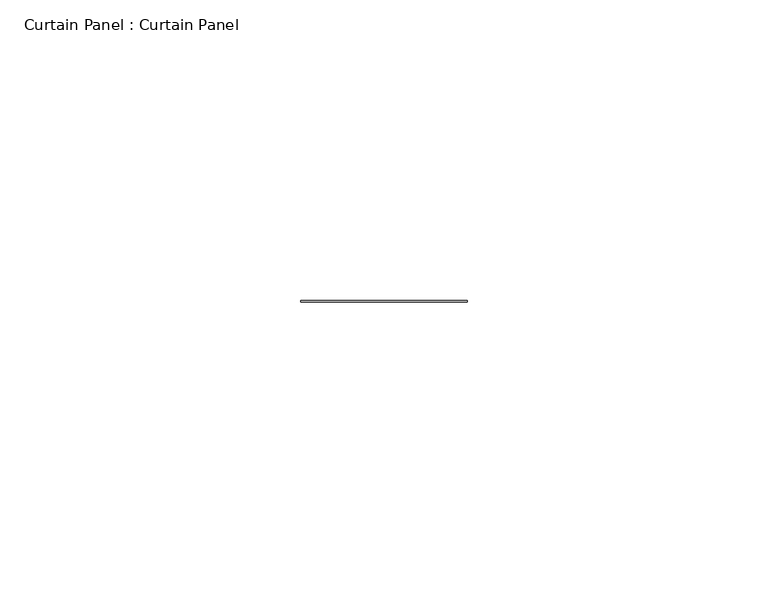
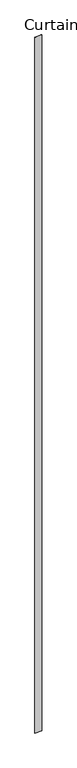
"""IFC4 building model written with IfcOpenShell, lengths in millimetres: plate geometry, Curtain Panel : Curtain Panel."""

from ifc_helpers import new_model, si_unit, frame, origin, place, context, project, spatial, polyline, outline, extrude, source, transform, mapped, element, save


def curtain_panel_curtain_panel_f88c90b2(model_context):
    return source(origin(), model_context, "Body", "SweptSolid", [
        extrude(outline(polyline([(-372.4556046, -1015.275335), (-344.8700517, -1015.275335), (-344.8700517, -1015.4507404), (-372.4556046, -1015.4507404), (-372.4556046, -1015.275335)])), frame((0.0, 0.0, 1.3000189), z_axis=(0.0, 0.0, 1.0), x_axis=(1.0, 0.0, 0.0)), (0.0, 0.0, 1.0), 3046.6999811),
    ])


if __name__ == "__main__":
    model = new_model("IFC4")
    model_context = context("Model", 3, world=origin())
    ifc_project = project(units=[si_unit("LENGTHUNIT", "METRE", prefix="MILLI")], contexts=[model_context])
    site = spatial("IfcSite", under=ifc_project)
    building = spatial("IfcBuilding", under=site)
    placement = place(None, origin())
    curtain_panel_curtain_panel_shape = curtain_panel_curtain_panel_f88c90b2(model_context)
    element("IfcPlate", 1, ObjectType="Curtain Panel : Curtain Panel", at=placement, inside=building, context=model_context, shape_type="MappedRepresentation", body=[
        mapped(curtain_panel_curtain_panel_shape, transform((0.0, 0.0, 0.0), x_axis=(1.0, 0.0, 0.0), y_axis=(0.0, 1.0, 0.0), z_axis=(0.0, 0.0, 1.0))),
    ])
    save(model, "model.ifc")
